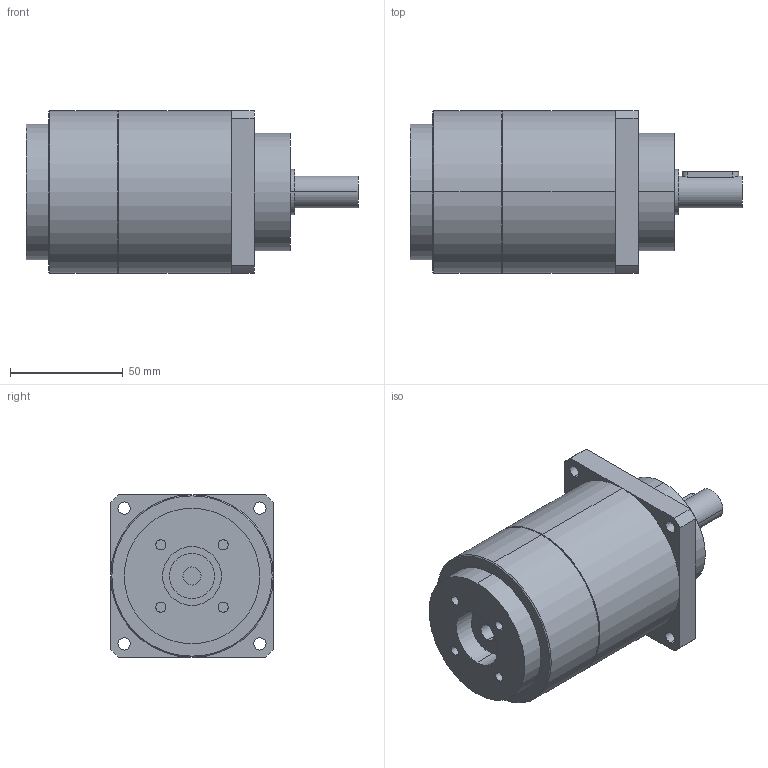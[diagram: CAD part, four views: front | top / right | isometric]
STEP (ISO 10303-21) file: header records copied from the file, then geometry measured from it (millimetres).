
FILE_DESCRIPTION(('CoCreate Modeling STEP Export'),'2;1');
FILE_NAME('GPT75_ig-9-12-16-20-25-28-35-40-50-70-100_14_B5T_8_P10.stp','2014-08-27T13:41:33',(''),(''),'CoCreate Modeling STEP processor for AP214 (Solid Model)','CoCreate Modeling 16.00C 25-Feb-2009 (C) Parametric Technology GmbH','');
FILE_SCHEMA(('AUTOMOTIVE_DESIGN { 1 0 10303 214 1 1 1 1 }'));
Length unit declared in the file: millimetre
Products named in the file (2): GPT75_ig-9-12-16-20-25-28-35-40-50-70-100_14_B5T_8_P10
Assembly tree (1 placements, depth 2):
  GPT75_ig-9-12-16-20-25-28-35-40-50-70-100_14_B5T_8_P10
    GPT75_ig-9-12-16-20-25-28-35-40-50-70-100_14_B5T_8_P10
Bounding box: 147 x 72 x 72 mm (x, y, z)
Volume: 441147.6 mm3; surface area: 40614.8 mm2
Topology: 1 solids, 1 shells, 72 faces, 164 edges, 107 vertices
Faces by surface type: cylinder 42, plane 26, cone 4
Entity records: 2171 total; most frequent: CARTESIAN_POINT 663, ORIENTED_EDGE 328, DIRECTION 268, EDGE_CURVE 164, VERTEX_POINT 107, AXIS2_PLACEMENT_3D 100, EDGE_LOOP 93, FACE_OUTER_BOUND 72
